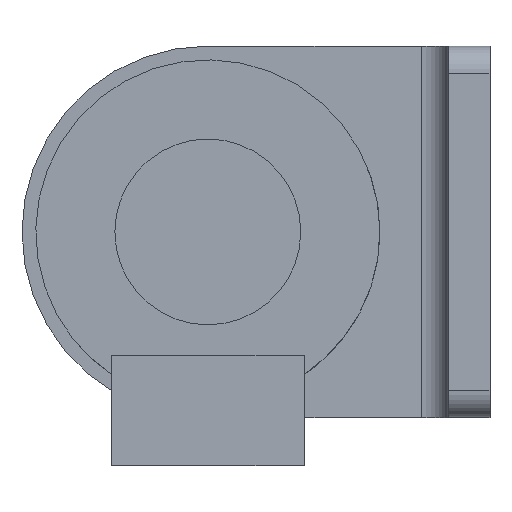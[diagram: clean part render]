
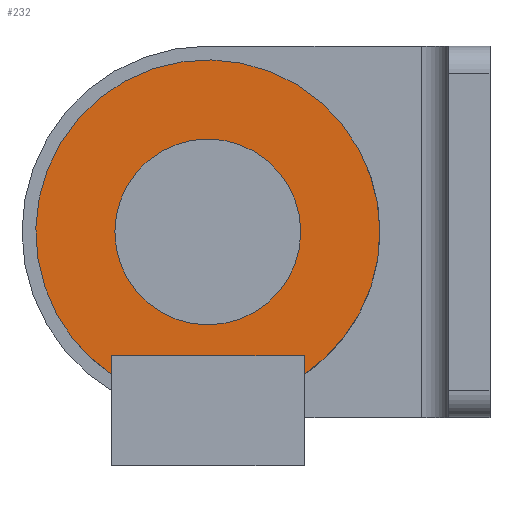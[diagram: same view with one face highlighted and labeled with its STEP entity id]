
A CAD part, front view. The second image highlights one B-rep face of the part: STEP entity #232.
In plain terms, the highlighted planar face has unit normal (0, -1, 0).
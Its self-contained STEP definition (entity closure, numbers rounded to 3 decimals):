
#57=CARTESIAN_POINT('Axis2P3D Location',(0.,-26.75,0.)) ;
#61=CARTESIAN_POINT('Vertex',(7.,-26.75,-10.356)) ;
#63=CARTESIAN_POINT('Vertex',(10.97,-26.75,5.993)) ;
#70=CARTESIAN_POINT('Vertex',(-7.,-26.75,-10.356)) ;
#73=CARTESIAN_POINT('Axis2P3D Location',(0.,-26.75,0.)) ;
#77=CARTESIAN_POINT('Vertex',(-10.97,-26.75,-5.993)) ;
#108=CARTESIAN_POINT('Axis2P3D Location',(0.,-26.75,0.)) ;
#182=CARTESIAN_POINT('Axis2P3D Location',(12.5,-26.75,0.)) ;
#187=CARTESIAN_POINT('Line Origine',(-7.,-26.75,-9.678)) ;
#191=CARTESIAN_POINT('Vertex',(-7.,-26.75,-9.)) ;
#194=CARTESIAN_POINT('Line Origine',(0.,-26.75,-9.)) ;
#198=CARTESIAN_POINT('Vertex',(7.,-26.75,-9.)) ;
#201=CARTESIAN_POINT('Line Origine',(7.,-26.75,-9.678)) ;
#214=CARTESIAN_POINT('Axis2P3D Location',(0.,-26.75,0.)) ;
#218=CARTESIAN_POINT('Vertex',(6.75,-26.75,0.)) ;
#220=CARTESIAN_POINT('Vertex',(-6.75,-26.75,0.)) ;
#223=CARTESIAN_POINT('Axis2P3D Location',(0.,-26.75,0.)) ;
#58=DIRECTION('Axis2P3D Direction',(0.,-1.,0.)) ;
#74=DIRECTION('Axis2P3D Direction',(0.,-1.,0.)) ;
#109=DIRECTION('Axis2P3D Direction',(0.,-1.,0.)) ;
#183=DIRECTION('Axis2P3D Direction',(0.,-1.,0.)) ;
#184=DIRECTION('Axis2P3D XDirection',(1.,0.,0.)) ;
#188=DIRECTION('Vector Direction',(0.,0.,1.)) ;
#195=DIRECTION('Vector Direction',(1.,0.,0.)) ;
#202=DIRECTION('Vector Direction',(0.,0.,-1.)) ;
#215=DIRECTION('Axis2P3D Direction',(0.,-1.,0.)) ;
#224=DIRECTION('Axis2P3D Direction',(0.,-1.,0.)) ;
#59=AXIS2_PLACEMENT_3D('Circle Axis2P3D',#57,#58,$) ;
#75=AXIS2_PLACEMENT_3D('Circle Axis2P3D',#73,#74,$) ;
#110=AXIS2_PLACEMENT_3D('Circle Axis2P3D',#108,#109,$) ;
#185=AXIS2_PLACEMENT_3D('Plane Axis2P3D',#182,#183,#184) ;
#216=AXIS2_PLACEMENT_3D('Circle Axis2P3D',#214,#215,$) ;
#225=AXIS2_PLACEMENT_3D('Circle Axis2P3D',#223,#224,$) ;
#207=ORIENTED_EDGE('',*,*,#65,.T.) ;
#208=ORIENTED_EDGE('',*,*,#112,.T.) ;
#209=ORIENTED_EDGE('',*,*,#79,.T.) ;
#210=ORIENTED_EDGE('',*,*,#193,.F.) ;
#211=ORIENTED_EDGE('',*,*,#200,.F.) ;
#212=ORIENTED_EDGE('',*,*,#205,.F.) ;
#229=ORIENTED_EDGE('',*,*,#222,.F.) ;
#230=ORIENTED_EDGE('',*,*,#227,.F.) ;
#231=FACE_BOUND('',#228,.T.) ;
#189=VECTOR('Line Direction',#188,1.) ;
#196=VECTOR('Line Direction',#195,1.) ;
#203=VECTOR('Line Direction',#202,1.) ;
#232=ADVANCED_FACE('PartBody',(#213,#231),#186,.T.) ;
#60=CIRCLE('generated circle',#59,12.5) ;
#76=CIRCLE('generated circle',#75,12.5) ;
#111=CIRCLE('generated circle',#110,12.5) ;
#217=CIRCLE('generated circle',#216,6.75) ;
#226=CIRCLE('generated circle',#225,6.75) ;
#65=EDGE_CURVE('',#62,#64,#60,.T.) ;
#79=EDGE_CURVE('',#78,#71,#76,.T.) ;
#112=EDGE_CURVE('',#64,#78,#111,.T.) ;
#193=EDGE_CURVE('',#192,#71,#190,.F.) ;
#200=EDGE_CURVE('',#199,#192,#197,.F.) ;
#205=EDGE_CURVE('',#62,#199,#204,.F.) ;
#222=EDGE_CURVE('',#219,#221,#217,.T.) ;
#227=EDGE_CURVE('',#221,#219,#226,.T.) ;
#206=EDGE_LOOP('',(#207,#208,#209,#210,#211,#212)) ;
#228=EDGE_LOOP('',(#229,#230)) ;
#213=FACE_OUTER_BOUND('',#206,.T.) ;
#190=LINE('Line',#187,#189) ;
#197=LINE('Line',#194,#196) ;
#204=LINE('Line',#201,#203) ;
#186=PLANE('',#185) ;
#62=VERTEX_POINT('',#61) ;
#64=VERTEX_POINT('',#63) ;
#71=VERTEX_POINT('',#70) ;
#78=VERTEX_POINT('',#77) ;
#192=VERTEX_POINT('',#191) ;
#199=VERTEX_POINT('',#198) ;
#219=VERTEX_POINT('',#218) ;
#221=VERTEX_POINT('',#220) ;
